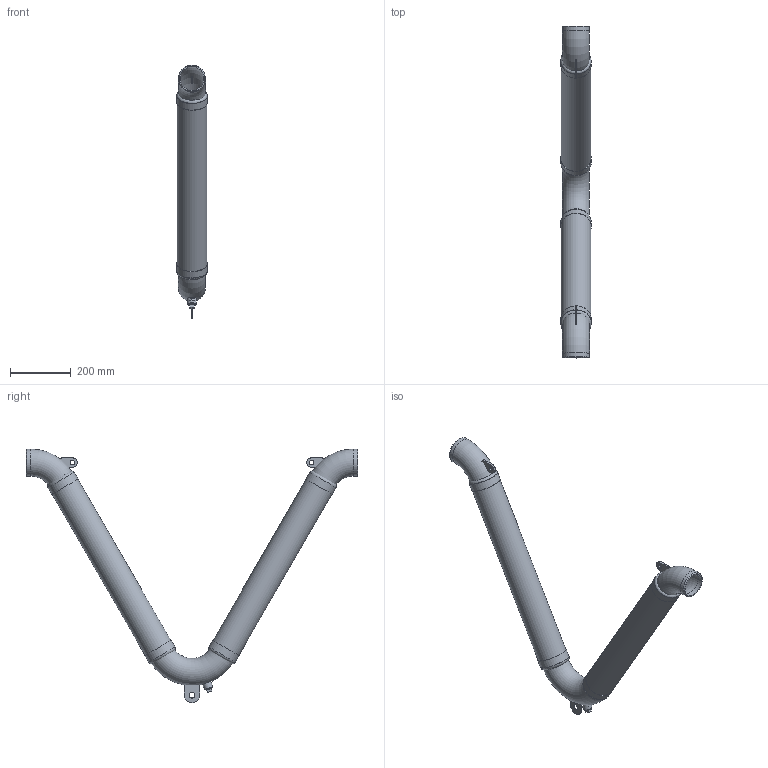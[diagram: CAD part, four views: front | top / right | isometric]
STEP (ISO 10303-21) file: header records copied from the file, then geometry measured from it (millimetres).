
FILE_DESCRIPTION(/* description */ (''),/* implementation_level */ '2;1');
FILE_NAME(/* name */ 'C:\001_Work\Designs\CSAVWN\CSAVWN-3x43.stp',/* time_stamp */ '2016-05-31T09:23:43-04:00',/* author */ ('rramoutar'),/* organization */ ('Mason Industries Inc.'),/* preprocessor_version */ 'ST-DEVELOPER v15.6',/* originating_system */ 'Autodesk Inventor 2015',/* authorisation */ '');
FILE_SCHEMA (('CONFIG_CONTROL_DESIGN'));
Length unit declared in the file: inch
Products named in the file (1): CSAVWN-3x43
Bounding box: 100.48 x 1092.2 x 835.02 mm (x, y, z)
Volume: 1027351.5 mm3; surface area: 1210088.3 mm2
Topology: 16 solids, 16 shells, 97 faces, 191 edges, 125 vertices
Faces by surface type: plane 50, cylinder 33, torus 10, cone 4
Full cylindrical faces by diameter (mm): 14.287 x2, 18.256 x1, 19.05 x1, 21.336 x2, 28.575 x2, 77.927 x2, 85.725 x4, 88.9 x2, 97.028 x2, 97.841 x6, 100.222 x4
Entity records: 2489 total; most frequent: CARTESIAN_POINT 472, DIRECTION 406, ORIENTED_EDGE 274, AXIS2_PLACEMENT_3D 181, EDGE_LOOP 172, EDGE_CURVE 137, VERTEX_POINT 115, STYLED_ITEM 113
